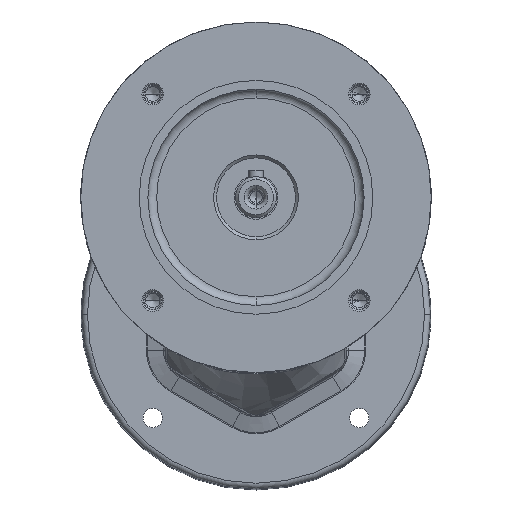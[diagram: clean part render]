
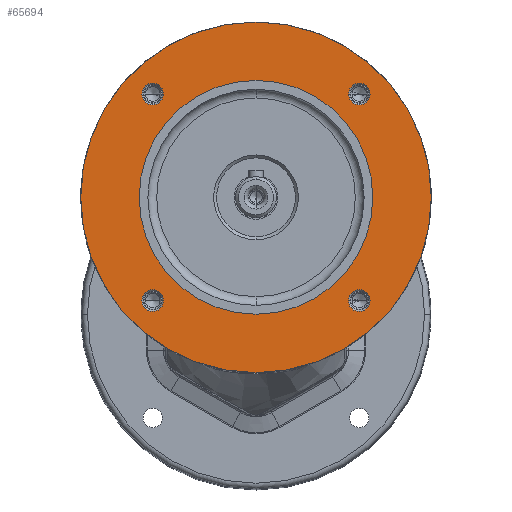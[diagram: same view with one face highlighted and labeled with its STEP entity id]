
A CAD part, top view. The second image highlights one B-rep face of the part: STEP entity #65694.
In plain terms, the highlighted planar face has unit normal (0, 0, 1).
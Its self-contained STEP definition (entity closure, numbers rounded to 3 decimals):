
#53234 = CARTESIAN_POINT ( 'NONE',  ( -31.655, -35.355, 0. ) ) ;
#53235 = DIRECTION ( 'NONE',  ( 0., -1., 0. ) ) ;
#53236 = DIRECTION ( 'NONE',  ( 0., 0., -1. ) ) ;
#53237 = CARTESIAN_POINT ( 'NONE',  ( -35.355, -35.355, 0. ) ) ;
#53238 = AXIS2_PLACEMENT_3D ( 'NONE', #53237, #53236, #53235 ) ;
#53239 = CIRCLE ( 'NONE', #53238, 3.7 ) ;
#53240 = CARTESIAN_POINT ( 'NONE',  ( -39.055, -35.355, 0. ) ) ;
#53267 = CARTESIAN_POINT ( 'NONE',  ( 39.055, 35.355, 0. ) ) ;
#53268 = DIRECTION ( 'NONE',  ( 0., -1., 0. ) ) ;
#53269 = DIRECTION ( 'NONE',  ( 0., 0., -1. ) ) ;
#53271 = CARTESIAN_POINT ( 'NONE',  ( 35.355, 35.355, 0. ) ) ;
#53272 = AXIS2_PLACEMENT_3D ( 'NONE', #53271, #53269, #53268 ) ;
#53273 = CIRCLE ( 'NONE', #53272, 3.7 ) ;
#53274 = CARTESIAN_POINT ( 'NONE',  ( 31.655, 35.355, 0. ) ) ;
#53279 = CARTESIAN_POINT ( 'NONE',  ( 31.655, -35.355, 0. ) ) ;
#53294 = CARTESIAN_POINT ( 'NONE',  ( -31.655, 35.355, 0. ) ) ;
#53295 = DIRECTION ( 'NONE',  ( 0., -1., 0. ) ) ;
#53296 = DIRECTION ( 'NONE',  ( 0., 0., -1. ) ) ;
#53297 = CARTESIAN_POINT ( 'NONE',  ( -35.355, 35.355, 0. ) ) ;
#53298 = AXIS2_PLACEMENT_3D ( 'NONE', #53297, #53296, #53295 ) ;
#53299 = CIRCLE ( 'NONE', #53298, 3.7 ) ;
#53300 = CARTESIAN_POINT ( 'NONE',  ( -39.055, 35.355, 0. ) ) ;
#53397 = CARTESIAN_POINT ( 'NONE',  ( 39.055, -35.355, 0. ) ) ;
#53398 = DIRECTION ( 'NONE',  ( 0., -1., 0. ) ) ;
#53399 = DIRECTION ( 'NONE',  ( 0., 0., -1. ) ) ;
#53400 = AXIS2_PLACEMENT_3D ( 'NONE', #53407, #53399, #53398 ) ;
#53401 = CIRCLE ( 'NONE', #53400, 3.7 ) ;
#53407 = CARTESIAN_POINT ( 'NONE',  ( 35.355, -35.355, 0. ) ) ;
#53959 = CARTESIAN_POINT ( 'NONE',  ( 0., 40., 0. ) ) ;
#53990 = CARTESIAN_POINT ( 'NONE',  ( 0., -40., 0. ) ) ;
#53991 = DIRECTION ( 'NONE',  ( 0., 1., 0. ) ) ;
#53992 = DIRECTION ( 'NONE',  ( 0., 0., -1. ) ) ;
#53993 = CARTESIAN_POINT ( 'NONE',  ( 0., 0., 0. ) ) ;
#53994 = AXIS2_PLACEMENT_3D ( 'NONE', #53993, #53992, #53991 ) ;
#53995 = CIRCLE ( 'NONE', #53994, 40. ) ;
#54000 = CARTESIAN_POINT ( 'NONE',  ( 0., 60., 0. ) ) ;
#56076 = DIRECTION ( 'NONE',  ( 0., -1., 0. ) ) ;
#56077 = DIRECTION ( 'NONE',  ( 0., 0., 1. ) ) ;
#56078 = CARTESIAN_POINT ( 'NONE',  ( 0., 40., 0. ) ) ;
#56079 = AXIS2_PLACEMENT_3D ( 'NONE', #56078, #56077, #56076 ) ;
#56080 = PLANE ( 'NONE',  #56079 ) ;
#56081 = FACE_OUTER_BOUND ( 'NONE', #65740, .T. ) ;
#56082 = FACE_BOUND ( 'NONE', #65736, .T. ) ;
#56083 = FACE_BOUND ( 'NONE', #65759, .T. ) ;
#56084 = FACE_BOUND ( 'NONE', #65755, .T. ) ;
#56085 = FACE_BOUND ( 'NONE', #65697, .T. ) ;
#56086 = FACE_BOUND ( 'NONE', #65695, .T. ) ;
#56087 = DIRECTION ( 'NONE',  ( 0., 1., 0. ) ) ;
#56088 = DIRECTION ( 'NONE',  ( 0., 0., -1. ) ) ;
#56089 = AXIS2_PLACEMENT_3D ( 'NONE', #56094, #56088, #56087 ) ;
#56090 = CIRCLE ( 'NONE', #56089, 60. ) ;
#56094 = CARTESIAN_POINT ( 'NONE',  ( 0., 0., 0. ) ) ;
#56167 = DIRECTION ( 'NONE',  ( 0., 1., 0. ) ) ;
#56168 = DIRECTION ( 'NONE',  ( 0., 0., -1. ) ) ;
#56169 = CARTESIAN_POINT ( 'NONE',  ( 0., 0., 0. ) ) ;
#56170 = AXIS2_PLACEMENT_3D ( 'NONE', #56169, #56168, #56167 ) ;
#56171 = CIRCLE ( 'NONE', #56170, 40. ) ;
#56172 = DIRECTION ( 'NONE',  ( 0., -1., 0. ) ) ;
#56173 = DIRECTION ( 'NONE',  ( 0., 0., -1. ) ) ;
#56174 = CARTESIAN_POINT ( 'NONE',  ( -35.355, 35.355, 0. ) ) ;
#56175 = AXIS2_PLACEMENT_3D ( 'NONE', #56174, #56173, #56172 ) ;
#56176 = CIRCLE ( 'NONE', #56175, 3.7 ) ;
#56201 = DIRECTION ( 'NONE',  ( 0., -1., 0. ) ) ;
#56202 = DIRECTION ( 'NONE',  ( 0., 0., -1. ) ) ;
#56203 = CARTESIAN_POINT ( 'NONE',  ( 35.355, 35.355, 0. ) ) ;
#56204 = AXIS2_PLACEMENT_3D ( 'NONE', #56203, #56202, #56201 ) ;
#56205 = CIRCLE ( 'NONE', #56204, 3.7 ) ;
#56206 = DIRECTION ( 'NONE',  ( 0., -1., 0. ) ) ;
#56207 = DIRECTION ( 'NONE',  ( 0., 0., -1. ) ) ;
#56208 = CARTESIAN_POINT ( 'NONE',  ( -35.355, -35.355, 0. ) ) ;
#56209 = AXIS2_PLACEMENT_3D ( 'NONE', #56208, #56207, #56206 ) ;
#56210 = CIRCLE ( 'NONE', #56209, 3.7 ) ;
#56211 = DIRECTION ( 'NONE',  ( 0., -1., 0. ) ) ;
#56212 = DIRECTION ( 'NONE',  ( 0., 0., -1. ) ) ;
#56213 = CARTESIAN_POINT ( 'NONE',  ( 35.355, -35.355, 0. ) ) ;
#56214 = AXIS2_PLACEMENT_3D ( 'NONE', #56213, #56212, #56211 ) ;
#56215 = CIRCLE ( 'NONE', #56214, 3.7 ) ;
#64657 = EDGE_CURVE ( 'NONE', #94859, #64667, #73088, .T. ) ;
#64667 = VERTEX_POINT ( 'NONE', #73114 ) ;
#65689 = EDGE_CURVE ( 'NONE', #64667, #94859, #56090, .T. ) ;
#65694 = ADVANCED_FACE ( 'NONE', ( #56086, #56085, #56084, #56083, #56082, #56081 ), #56080, .T. ) ;
#65695 = EDGE_LOOP ( 'NONE', ( #65696, #65750 ) ) ;
#65696 = ORIENTED_EDGE ( 'NONE', *, *, #71625, .T. ) ;
#65697 = EDGE_LOOP ( 'NONE', ( #65752, #65753 ) ) ;
#65735 = EDGE_CURVE ( 'NONE', #71591, #71594, #56176, .T. ) ;
#65736 = EDGE_LOOP ( 'NONE', ( #65737, #65738 ) ) ;
#65737 = ORIENTED_EDGE ( 'NONE', *, *, #95424, .T. ) ;
#65738 = ORIENTED_EDGE ( 'NONE', *, *, #65739, .T. ) ;
#65739 = EDGE_CURVE ( 'NONE', #95598, #93088, #56171, .T. ) ;
#65740 = EDGE_LOOP ( 'NONE', ( #65741, #65742 ) ) ;
#65741 = ORIENTED_EDGE ( 'NONE', *, *, #64657, .F. ) ;
#65742 = ORIENTED_EDGE ( 'NONE', *, *, #65689, .F. ) ;
#65750 = ORIENTED_EDGE ( 'NONE', *, *, #65751, .T. ) ;
#65751 = EDGE_CURVE ( 'NONE', #71570, #71626, #56215, .T. ) ;
#65752 = ORIENTED_EDGE ( 'NONE', *, *, #71558, .T. ) ;
#65753 = ORIENTED_EDGE ( 'NONE', *, *, #65754, .T. ) ;
#65754 = EDGE_CURVE ( 'NONE', #71556, #71559, #56210, .T. ) ;
#65755 = EDGE_LOOP ( 'NONE', ( #65756, #65757 ) ) ;
#65756 = ORIENTED_EDGE ( 'NONE', *, *, #71575, .T. ) ;
#65757 = ORIENTED_EDGE ( 'NONE', *, *, #65758, .T. ) ;
#65758 = EDGE_CURVE ( 'NONE', #71573, #71576, #56205, .T. ) ;
#65759 = EDGE_LOOP ( 'NONE', ( #65760, #65761 ) ) ;
#65760 = ORIENTED_EDGE ( 'NONE', *, *, #71593, .T. ) ;
#65761 = ORIENTED_EDGE ( 'NONE', *, *, #65735, .T. ) ;
#71556 = VERTEX_POINT ( 'NONE', #53240 ) ;
#71558 = EDGE_CURVE ( 'NONE', #71559, #71556, #53239, .T. ) ;
#71559 = VERTEX_POINT ( 'NONE', #53234 ) ;
#71570 = VERTEX_POINT ( 'NONE', #53279 ) ;
#71573 = VERTEX_POINT ( 'NONE', #53274 ) ;
#71575 = EDGE_CURVE ( 'NONE', #71576, #71573, #53273, .T. ) ;
#71576 = VERTEX_POINT ( 'NONE', #53267 ) ;
#71591 = VERTEX_POINT ( 'NONE', #53300 ) ;
#71593 = EDGE_CURVE ( 'NONE', #71594, #71591, #53299, .T. ) ;
#71594 = VERTEX_POINT ( 'NONE', #53294 ) ;
#71625 = EDGE_CURVE ( 'NONE', #71626, #71570, #53401, .T. ) ;
#71626 = VERTEX_POINT ( 'NONE', #53397 ) ;
#73084 = DIRECTION ( 'NONE',  ( 0., 1., 0. ) ) ;
#73085 = DIRECTION ( 'NONE',  ( 0., 0., -1. ) ) ;
#73086 = CARTESIAN_POINT ( 'NONE',  ( 0., 0., 0. ) ) ;
#73087 = AXIS2_PLACEMENT_3D ( 'NONE', #73086, #73085, #73084 ) ;
#73088 = CIRCLE ( 'NONE', #73087, 60. ) ;
#73114 = CARTESIAN_POINT ( 'NONE',  ( 0., -60., 0. ) ) ;
#93088 = VERTEX_POINT ( 'NONE', #53959 ) ;
#94859 = VERTEX_POINT ( 'NONE', #54000 ) ;
#95424 = EDGE_CURVE ( 'NONE', #93088, #95598, #53995, .T. ) ;
#95598 = VERTEX_POINT ( 'NONE', #53990 ) ;
